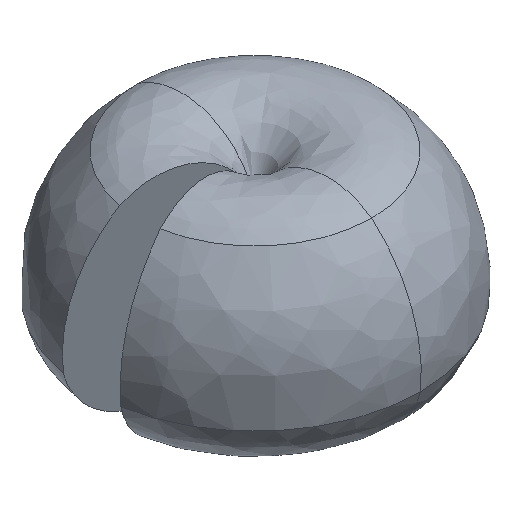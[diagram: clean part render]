
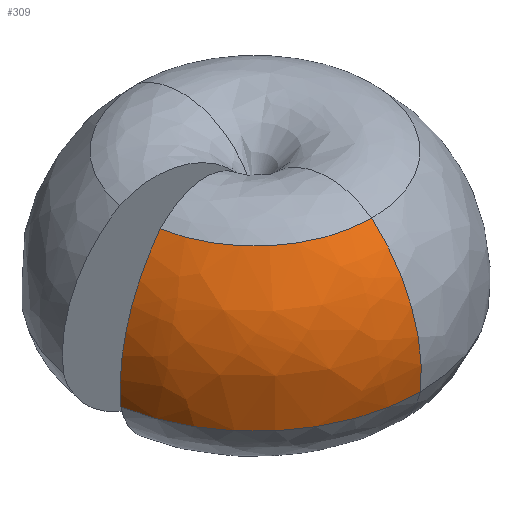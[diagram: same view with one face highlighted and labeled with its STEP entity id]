
A CAD part, isometric view. The second image highlights one B-rep face of the part: STEP entity #309.
In plain terms, the highlighted free-form (B-spline) face has degree [3, 3] with [4, 4] control points.
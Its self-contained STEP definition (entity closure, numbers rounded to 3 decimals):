
#94 = ORIENTED_EDGE ( 'NONE', *, *, #704, .T. ) ;
#196 =( BOUNDED_SURFACE ( )  B_SPLINE_SURFACE ( 3, 3, ( 
 ( #1548, #881, #1163, #1156 ),
 ( #1174, #1167, #872, #1215 ),
 ( #1209, #1232, #1222, #1286 ),
 ( #1310, #1243, #1298, #1294 ) ),
 .UNSPECIFIED., .F., .F., .F. ) 
 B_SPLINE_SURFACE_WITH_KNOTS ( ( 4, 4 ),
 ( 4, 4 ),
 ( 0., 1. ),
 ( 0., 1. ),
 .UNSPECIFIED. ) 
 GEOMETRIC_REPRESENTATION_ITEM ( )  RATIONAL_B_SPLINE_SURFACE ( (
 ( 1., 0.844, 0.844, 1.),
 ( 0.925, 0.78, 0.78, 0.925),
 ( 0.925, 0.78, 0.78, 0.925),
 ( 1., 0.844, 0.844, 1.) ) ) 
 REPRESENTATION_ITEM ( '' )  SURFACE ( )  );
#286 = CIRCLE ( 'NONE', #696, 3066.989 ) ;
#303 = DIRECTION ( 'NONE',  ( 0., -1., 0. ) ) ;
#309 = ADVANCED_FACE ( 'NONE', ( #711 ), #196, .T. ) ;
#311 = DIRECTION ( 'NONE',  ( 1., 0., 0. ) ) ;
#331 = EDGE_LOOP ( 'NONE', ( #1395, #94, #1757, #905 ) ) ;
#332 = EDGE_CURVE ( 'NONE', #1376, #1460, #919, .T. ) ;
#338 = AXIS2_PLACEMENT_3D ( 'NONE', #458, #580, #900 ) ;
#372 = CARTESIAN_POINT ( 'NONE',  ( 0., -420., 1000. ) ) ;
#385 = CARTESIAN_POINT ( 'NONE',  ( -3272.948, -577.109, 1988.283 ) ) ;
#390 = CARTESIAN_POINT ( 'NONE',  ( -2411.438, -425.202, 3300.228 ) ) ;
#433 = CARTESIAN_POINT ( 'NONE',  ( -3415.132, -602.18, 657.593 ) ) ;
#440 = CARTESIAN_POINT ( 'NONE',  ( -3421.926, -603.378, 719.003 ) ) ;
#458 = CARTESIAN_POINT ( 'NONE',  ( 0., 0., 657.593 ) ) ;
#486 = CARTESIAN_POINT ( 'NONE',  ( 0., -3467.816, 657.593 ) ) ;
#515 = CARTESIAN_POINT ( 'NONE',  ( -3426.885, -604.252, 780.543 ) ) ;
#535 = CARTESIAN_POINT ( 'NONE',  ( -3430.796, -604.942, 857.631 ) ) ;
#546 = CARTESIAN_POINT ( 'NONE',  ( -3431.464, -605.06, 873.057 ) ) ;
#552 = CARTESIAN_POINT ( 'NONE',  ( -3432.293, -605.206, 896.207 ) ) ;
#561 = CARTESIAN_POINT ( 'NONE',  ( -3432.541, -605.25, 903.926 ) ) ;
#574 = CARTESIAN_POINT ( 'NONE',  ( -3432.98, -605.327, 919.368 ) ) ;
#580 = DIRECTION ( 'NONE',  ( 0., 0., 1. ) ) ;
#629 = CARTESIAN_POINT ( 'NONE',  ( -2457.08, -433.25, 3259.354 ) ) ;
#657 = EDGE_CURVE ( 'NONE', #1782, #1460, #286, .T. ) ;
#659 = CARTESIAN_POINT ( 'NONE',  ( -3433.17, -605.36, 927.088 ) ) ;
#665 = CARTESIAN_POINT ( 'NONE',  ( -3433.978, -605.503, 965.658 ) ) ;
#675 = CARTESIAN_POINT ( 'NONE',  ( -3434.163, -605.536, 996.447 ) ) ;
#682 = CARTESIAN_POINT ( 'NONE',  ( -3433.359, -605.394, 1088.621 ) ) ;
#688 = CARTESIAN_POINT ( 'NONE',  ( -3431.008, -604.979, 1149.809 ) ) ;
#694 = CARTESIAN_POINT ( 'NONE',  ( -3422.742, -603.522, 1271.673 ) ) ;
#696 = AXIS2_PLACEMENT_3D ( 'NONE', #372, #311, #303 ) ;
#704 = EDGE_CURVE ( 'NONE', #1782, #1534, #1722, .T. ) ;
#711 = FACE_OUTER_BOUND ( 'NONE', #331, .T. ) ;
#720 = CARTESIAN_POINT ( 'NONE',  ( -3416.827, -602.479, 1332.349 ) ) ;
#729 = CARTESIAN_POINT ( 'NONE',  ( -3401.46, -599.769, 1453.192 ) ) ;
#786 = AXIS2_PLACEMENT_3D ( 'NONE', #1451, #1448, #1445 ) ;
#797 = CARTESIAN_POINT ( 'NONE',  ( -3392.008, -598.103, 1513.36 ) ) ;
#803 = CARTESIAN_POINT ( 'NONE',  ( -3369.555, -594.144, 1633.184 ) ) ;
#812 = CARTESIAN_POINT ( 'NONE',  ( -3356.555, -591.851, 1692.842 ) ) ;
#822 = CARTESIAN_POINT ( 'NONE',  ( -3326.956, -586.632, 1811.639 ) ) ;
#834 = CARTESIAN_POINT ( 'NONE',  ( -3310.358, -583.705, 1870.779 ) ) ;
#855 = CARTESIAN_POINT ( 'NONE',  ( -3289.61, -580.047, 1937.013 ) ) ;
#865 = CARTESIAN_POINT ( 'NONE',  ( -3287.277, -579.636, 1944.365 ) ) ;
#872 = CARTESIAN_POINT ( 'NONE',  ( -1631.996, -3214.405, 2624.876 ) ) ;
#873 = CARTESIAN_POINT ( 'NONE',  ( -3282.561, -578.804, 1959.036 ) ) ;
#881 = CARTESIAN_POINT ( 'NONE',  ( -2195.557, -1649.521, 3300.228 ) ) ;
#900 = DIRECTION ( 'NONE',  ( 0., -1., 0. ) ) ;
#905 = ORIENTED_EDGE ( 'NONE', *, *, #332, .T. ) ;
#906 = CARTESIAN_POINT ( 'NONE',  ( -3415.132, -602.18, 657.593 ) ) ;
#919 = CIRCLE ( 'NONE', #338, 3467.816 ) ;
#949 = CARTESIAN_POINT ( 'NONE',  ( -3280.177, -578.384, 1966.358 ) ) ;
#963 = CARTESIAN_POINT ( 'NONE',  ( -3268.026, -576.241, 2002.846 ) ) ;
#969 = CARTESIAN_POINT ( 'NONE',  ( -3252.954, -573.583, 2046.374 ) ) ;
#979 = CARTESIAN_POINT ( 'NONE',  ( -3242.497, -571.74, 2075.177 ) ) ;
#988 = CARTESIAN_POINT ( 'NONE',  ( -3209.914, -565.994, 2160.949 ) ) ;
#1008 = CARTESIAN_POINT ( 'NONE',  ( -3186.578, -561.88, 2217.282 ) ) ;
#1025 = CARTESIAN_POINT ( 'NONE',  ( -3136.722, -553.089, 2328.271 ) ) ;
#1065 = CARTESIAN_POINT ( 'NONE',  ( -2411.438, -425.202, 3300.228 ) ) ;
#1085 = CARTESIAN_POINT ( 'NONE',  ( -3110.202, -548.413, 2382.929 ) ) ;
#1092 = CARTESIAN_POINT ( 'NONE',  ( -3053.991, -538.501, 2490.576 ) ) ;
#1098 = CARTESIAN_POINT ( 'NONE',  ( -3024.3, -533.266, 2543.565 ) ) ;
#1106 = CARTESIAN_POINT ( 'NONE',  ( -2961.723, -522.232, 2647.862 ) ) ;
#1115 = CARTESIAN_POINT ( 'NONE',  ( -2928.837, -516.433, 2699.171 ) ) ;
#1121 = CARTESIAN_POINT ( 'NONE',  ( -2877.07, -507.305, 2774.851 ) ) ;
#1128 = CARTESIAN_POINT ( 'NONE',  ( -2859.408, -504.191, 2799.863 ) ) ;
#1133 = CARTESIAN_POINT ( 'NONE',  ( -2836.815, -500.207, 2830.858 ) ) ;
#1144 = CARTESIAN_POINT ( 'NONE',  ( -2832.27, -499.406, 2837.044 ) ) ;
#1156 = CARTESIAN_POINT ( 'NONE',  ( 0., -2448.638, 3300.228 ) ) ;
#1157 = CARTESIAN_POINT ( 'NONE',  ( -2823.13, -497.794, 2849.387 ) ) ;
#1163 = CARTESIAN_POINT ( 'NONE',  ( -1243.206, -2448.638, 3300.228 ) ) ;
#1167 = CARTESIAN_POINT ( 'NONE',  ( -2882.178, -2165.378, 2624.876 ) ) ;
#1174 = CARTESIAN_POINT ( 'NONE',  ( -3165.571, -558.176, 2624.876 ) ) ;
#1209 = CARTESIAN_POINT ( 'NONE',  ( -3527.39, -621.974, 1672.239 ) ) ;
#1212 = CARTESIAN_POINT ( 'NONE',  ( -2818.535, -496.984, 2855.544 ) ) ;
#1215 = CARTESIAN_POINT ( 'NONE',  ( 0., -3214.405, 2624.876 ) ) ;
#1218 = CARTESIAN_POINT ( 'NONE',  ( -2804.689, -494.542, 2873.95 ) ) ;
#1222 = CARTESIAN_POINT ( 'NONE',  ( -1818.531, -3581.806, 1672.239 ) ) ;
#1227 = CARTESIAN_POINT ( 'NONE',  ( -2795.375, -492.9, 2886.141 ) ) ;
#1232 = CARTESIAN_POINT ( 'NONE',  ( -3211.606, -2412.877, 1672.239 ) ) ;
#1238 = CARTESIAN_POINT ( 'NONE',  ( -2748.38, -484.614, 2946.699 ) ) ;
#1243 = CARTESIAN_POINT ( 'NONE',  ( -3109.397, -2336.088, 657.593 ) ) ;
#1252 = CARTESIAN_POINT ( 'NONE',  ( -2709.437, -477.747, 2993.878 ) ) ;
#1256 = CARTESIAN_POINT ( 'NONE',  ( -2628.882, -463.543, 3085.723 ) ) ;
#1286 = CARTESIAN_POINT ( 'NONE',  ( 0., -3581.806, 1672.239 ) ) ;
#1287 = CARTESIAN_POINT ( 'NONE',  ( -2587.269, -456.205, 3130.389 ) ) ;
#1294 = CARTESIAN_POINT ( 'NONE',  ( 0., -3467.816, 657.593 ) ) ;
#1298 = CARTESIAN_POINT ( 'NONE',  ( -1760.656, -3467.816, 657.593 ) ) ;
#1299 = CARTESIAN_POINT ( 'NONE',  ( -2501.368, -441.059, 3217.205 ) ) ;
#1310 = CARTESIAN_POINT ( 'NONE',  ( -3415.132, -602.18, 657.593 ) ) ;
#1366 = CARTESIAN_POINT ( 'NONE',  ( 0., -2448.638, 3300.228 ) ) ;
#1376 = VERTEX_POINT ( 'NONE', #906 ) ;
#1395 = ORIENTED_EDGE ( 'NONE', *, *, #657, .F. ) ;
#1445 = DIRECTION ( 'NONE',  ( 0., -1., 0. ) ) ;
#1448 = DIRECTION ( 'NONE',  ( 0., 0., -1. ) ) ;
#1451 = CARTESIAN_POINT ( 'NONE',  ( 0., 0., 3300.228 ) ) ;
#1460 = VERTEX_POINT ( 'NONE', #486 ) ;
#1534 = VERTEX_POINT ( 'NONE', #390 ) ;
#1548 = CARTESIAN_POINT ( 'NONE',  ( -2411.438, -425.202, 3300.228 ) ) ;
#1722 = CIRCLE ( 'NONE', #786, 2448.638 ) ;
#1746 = EDGE_CURVE ( 'NONE', #1534, #1376, #1770, .T. ) ;
#1757 = ORIENTED_EDGE ( 'NONE', *, *, #1746, .T. ) ;
#1770 = B_SPLINE_CURVE_WITH_KNOTS ( 'NONE', 3,
 ( #1065, #629, #1299, #1287, #1256, #1252, #1238, #1227, #1218, #1212, #1157, #1144, #1133, #1128, #1121, #1115, #1106, #1098, #1092, #1085, #1025, #1008, #988, #979, #969, #963, #385, #949, #873, #865, #855, #834, #822, #812, #803, #797, #729, #720, #694, #688, #682, #675, #665, #659, #574, #561, #552, #546, #535, #515, #440, #433 ),
 .UNSPECIFIED., .F., .F.,
 ( 4, 2, 2, 2, 2, 2, 2, 2, 2, 2, 2, 2, 2, 2, 2, 2, 2, 2, 2, 2, 2, 2, 2, 2, 2, 4 ),
 ( 0., 0.184, 0.369, 0.553, 0.599, 0.623, 0.646, 0.738, 0.922, 1.107, 1.291, 1.476, 1.568, 1.614, 1.637, 1.66, 1.844, 2.029, 2.213, 2.398, 2.582, 2.675, 2.698, 2.721, 2.767, 2.951 ),
 .UNSPECIFIED. ) ;
#1782 = VERTEX_POINT ( 'NONE', #1366 ) ;
